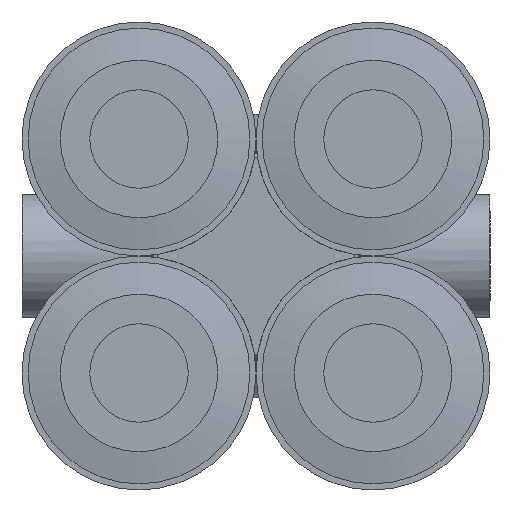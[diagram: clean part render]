
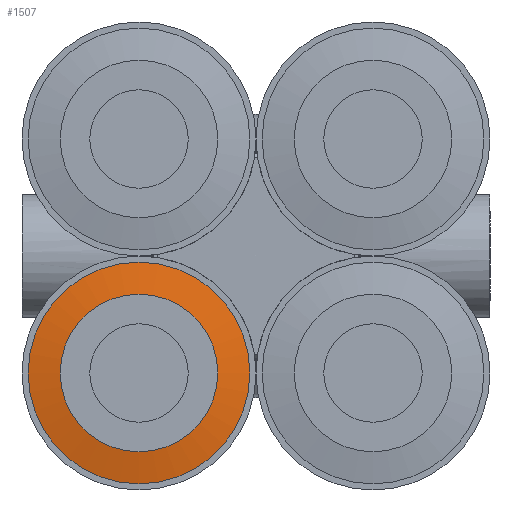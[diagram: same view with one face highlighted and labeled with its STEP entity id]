
A CAD part, front view. The second image highlights one B-rep face of the part: STEP entity #1507.
In plain terms, the highlighted conical face has half-angle 80 degrees and reference radius 3.85 mm.
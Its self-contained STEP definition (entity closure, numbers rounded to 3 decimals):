
#1473=CARTESIAN_POINT('',(-9.25,-12.971,-4.75));
#1474=VERTEX_POINT('',#1473);
#1475=CARTESIAN_POINT('',(-4.75,-12.971,-4.75));
#1476=DIRECTION('',(0.0,-1.0,0.0));
#1477=DIRECTION('',(-1.0,0.0,0.0));
#1478=AXIS2_PLACEMENT_3D('',#1475,#1476,#1477);
#1479=CIRCLE('',#1478,4.5);
#1480=EDGE_CURVE('',#1474,#1474,#1479,.T.);
#1488=CARTESIAN_POINT('',(-4.75,-13.085,-4.75));
#1489=DIRECTION('',(0.,1.0,0.0));
#1490=DIRECTION('',(-1.0,0.0,0.0));
#1491=AXIS2_PLACEMENT_3D('',#1488,#1489,#1490);
#1492=CONICAL_SURFACE('',#1491,3.85,80.);
#1493=CARTESIAN_POINT('',(-7.95,-13.2,-4.75));
#1494=VERTEX_POINT('',#1493);
#1495=CARTESIAN_POINT('',(-4.75,-13.2,-4.75));
#1496=DIRECTION('',(0.0,-1.0,0.0));
#1497=DIRECTION('',(-1.0,0.0,0.0));
#1498=AXIS2_PLACEMENT_3D('',#1495,#1496,#1497);
#1499=CIRCLE('',#1498,3.2);
#1500=EDGE_CURVE('',#1494,#1494,#1499,.T.);
#1501=ORIENTED_EDGE('',*,*,#1500,.F.);
#1502=EDGE_LOOP('',(#1501));
#1503=FACE_OUTER_BOUND('',#1502,.T.);
#1504=ORIENTED_EDGE('',*,*,#1480,.T.);
#1505=EDGE_LOOP('',(#1504));
#1506=FACE_BOUND('',#1505,.T.);
#1507=ADVANCED_FACE('',(#1503,#1506),#1492,.T.);
